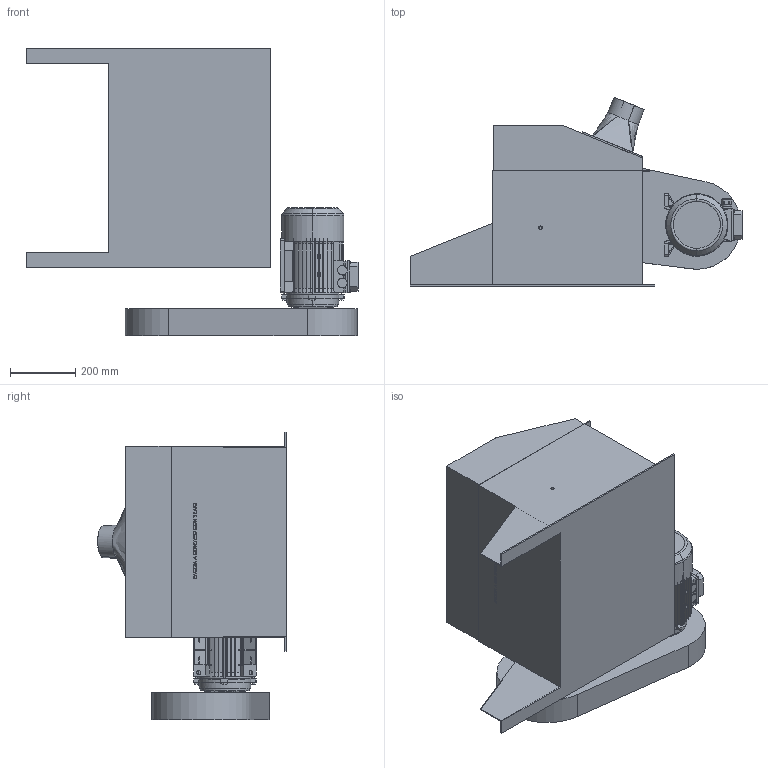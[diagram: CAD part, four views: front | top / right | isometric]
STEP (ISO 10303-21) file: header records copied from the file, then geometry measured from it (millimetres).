
FILE_DESCRIPTION (( 'STEP AP203' ), '1' );
FILE_NAME ('30768.step', '2019-03-14T14:32:59', ( 'PC' ), ( 'Hewlett-Packard Company' ), 'SwSTEP 2.0', 'SolidWorks 2016', '' );
FILE_SCHEMA (( 'CONFIG_CONTROL_DESIGN' ));
Length unit declared in the file: millimetre
Products named in the file (1): 30768
Bounding box: 1017.5 x 579.44 x 882 mm (x, y, z)
Volume: 150601311.7 mm3; surface area: 3749978.6 mm2
Topology: 8 solids, 9 shells, 963 faces, 2502 edges, 1613 vertices
Faces by surface type: plane 655, cylinder 113, cone 103, bspline 86, torus 6
Entity records: 40133 total; most frequent: CARTESIAN_POINT 17125, ORIENTED_EDGE 5000, DIRECTION 4316, EDGE_CURVE 2500, LINE 1676, VECTOR 1676, VERTEX_POINT 1613, AXIS2_PLACEMENT_3D 1320
